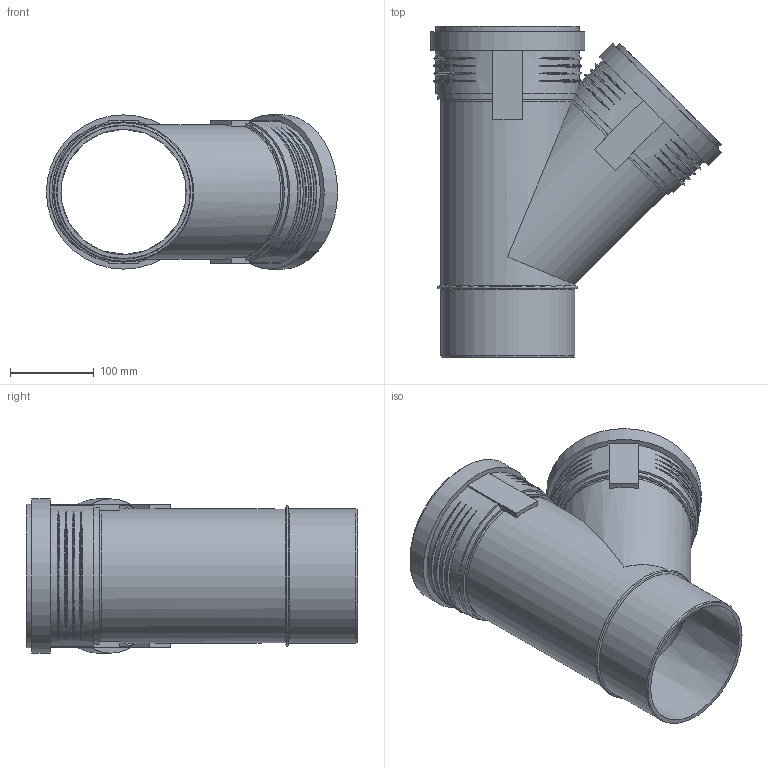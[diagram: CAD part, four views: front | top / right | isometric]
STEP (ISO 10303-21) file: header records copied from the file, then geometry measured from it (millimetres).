
FILE_DESCRIPTION(/* description */ (''),/* implementation_level */ '2;1');
FILE_NAME(/* name */ 'Z:\Geberit\Export\NewStep\390737.stp',/* time_stamp */ '2014-04-02T08:16:52+02:00',/* author */ ('ML'),/* organization */ (''),/* preprocessor_version */ 'ST-DEVELOPER v15.2',/* originating_system */ 'Autodesk Inventor 2014',/* authorisation */ '');
FILE_SCHEMA (('AUTOMOTIVE_DESIGN { 1 0 10303 214 3 1 1 }'));
Length unit declared in the file: millimetre
Products named in the file (4): 861606; 861560; 861560_1; 390737
Bounding box: 348.03 x 395.8 x 184.5 mm (x, y, z)
Volume: 1482646.6 mm3; surface area: 614136.3 mm2
Topology: 3 solids, 3 shells, 129 faces, 319 edges, 222 vertices
Faces by surface type: torus 50, plane 37, cylinder 33, cone 9
Full cylindrical faces by diameter (mm): 149.85 x1, 150.65 x2, 160.25 x4, 161.7 x4, 171.3 x2, 174.9 x2, 184.5 x2
Entity records: 5372 total; most frequent: CARTESIAN_POINT 2302, ORIENTED_EDGE 572, DIRECTION 567, EDGE_CURVE 286, AXIS2_PLACEMENT_3D 247, VERTEX_POINT 214, EDGE_LOOP 188, ADVANCED_FACE 129
